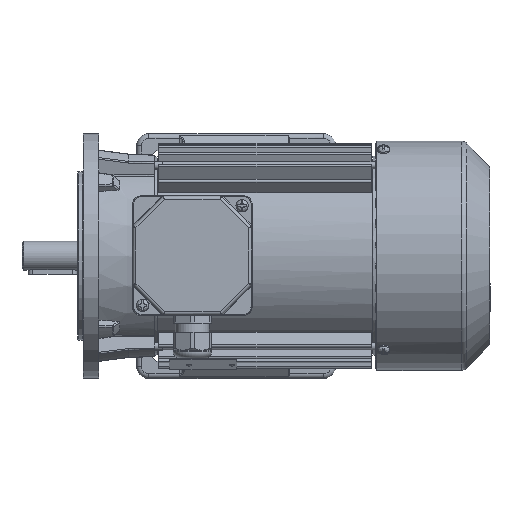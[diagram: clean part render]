
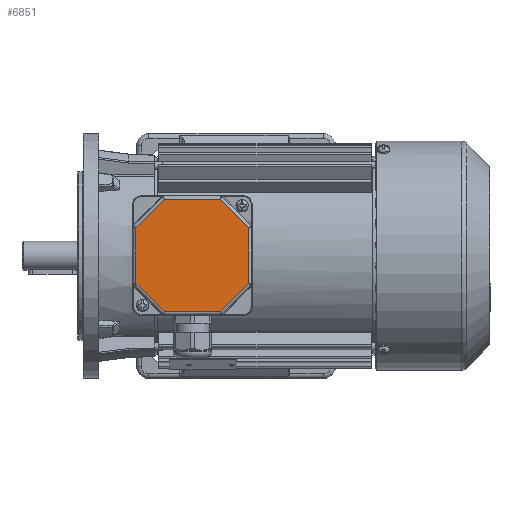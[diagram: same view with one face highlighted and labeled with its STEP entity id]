
A CAD part, top view. The second image highlights one B-rep face of the part: STEP entity #6851.
In plain terms, the highlighted planar face has unit normal (0, 0, 1).
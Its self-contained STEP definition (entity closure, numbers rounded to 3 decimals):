
#6851 = ADVANCED_FACE( '', ( #14478 ), #14479, .T. );
#14478 = FACE_OUTER_BOUND( '', #48279, .T. );
#14479 = PLANE( '', #48280 );
#48279 = EDGE_LOOP( '', ( #81169, #81170, #81171, #81172, #81173, #81174, #81175, #81176 ) );
#48280 = AXIS2_PLACEMENT_3D( '', #81177, #81178, #81179 );
#81169 = ORIENTED_EDGE( '', *, *, #95983, .T. );
#81170 = ORIENTED_EDGE( '', *, *, #98002, .T. );
#81171 = ORIENTED_EDGE( '', *, *, #97728, .T. );
#81172 = ORIENTED_EDGE( '', *, *, #98003, .T. );
#81173 = ORIENTED_EDGE( '', *, *, #98004, .T. );
#81174 = ORIENTED_EDGE( '', *, *, #93099, .T. );
#81175 = ORIENTED_EDGE( '', *, *, #97291, .T. );
#81176 = ORIENTED_EDGE( '', *, *, #94090, .T. );
#81177 = CARTESIAN_POINT( '', ( -39., 39., 12. ) );
#81178 = DIRECTION( '', ( 0., 0., 1. ) );
#81179 = DIRECTION( '', ( 1., 0., 0. ) );
#93099 = EDGE_CURVE( '', #104930, #102729, #106278, .T. );
#94090 = EDGE_CURVE( '', #107864, #107862, #107865, .T. );
#95983 = EDGE_CURVE( '', #107862, #110754, #110756, .F. );
#97291 = EDGE_CURVE( '', #102729, #107864, #112504, .F. );
#97728 = EDGE_CURVE( '', #113066, #109374, #113067, .F. );
#98002 = EDGE_CURVE( '', #110754, #113066, #113406, .T. );
#98003 = EDGE_CURVE( '', #109374, #113407, #113408, .T. );
#98004 = EDGE_CURVE( '', #113407, #104930, #113409, .F. );
#102729 = VERTEX_POINT( '', #120023 );
#104930 = VERTEX_POINT( '', #127484 );
#106278 = LINE( '', #133289, #133290 );
#107862 = VERTEX_POINT( '', #138285 );
#107864 = VERTEX_POINT( '', #138287 );
#107865 = LINE( '', #138288, #138289 );
#109374 = VERTEX_POINT( '', #143074 );
#110754 = VERTEX_POINT( '', #146317 );
#110756 = LINE( '', #146319, #146320 );
#112504 = LINE( '', #152281, #152282 );
#113066 = VERTEX_POINT( '', #154071 );
#113067 = LINE( '', #154072, #154073 );
#113406 = LINE( '', #154928, #154929 );
#113407 = VERTEX_POINT( '', #154930 );
#113408 = LINE( '', #154931, #154932 );
#113409 = LINE( '', #154933, #154934 );
#120023 = CARTESIAN_POINT( '', ( -18.255, -36.825, 12. ) );
#127484 = CARTESIAN_POINT( '', ( -36.825, -18.255, 12. ) );
#133289 = CARTESIAN_POINT( '', ( -17.679, -37.401, 12. ) );
#133290 = VECTOR( '', #165124, 1000. );
#138285 = CARTESIAN_POINT( '', ( 36.825, -18.255, 12. ) );
#138287 = CARTESIAN_POINT( '', ( 18.255, -36.825, 12. ) );
#138288 = CARTESIAN_POINT( '', ( 37.401, -17.679, 12. ) );
#138289 = VECTOR( '', #166254, 1000. );
#143074 = CARTESIAN_POINT( '', ( -18.255, 36.825, 12. ) );
#146317 = CARTESIAN_POINT( '', ( 36.825, 18.255, 12. ) );
#146319 = CARTESIAN_POINT( '', ( 36.825, 19.069, 12. ) );
#146320 = VECTOR( '', #168736, 1000. );
#152281 = CARTESIAN_POINT( '', ( 19.069, -36.825, 12. ) );
#152282 = VECTOR( '', #170118, 1000. );
#154071 = CARTESIAN_POINT( '', ( 18.255, 36.825, 12. ) );
#154072 = CARTESIAN_POINT( '', ( -19.069, 36.825, 12. ) );
#154073 = VECTOR( '', #170545, 1000. );
#154928 = CARTESIAN_POINT( '', ( 17.679, 37.401, 12. ) );
#154929 = VECTOR( '', #170829, 1000. );
#154930 = CARTESIAN_POINT( '', ( -36.825, 18.255, 12. ) );
#154931 = CARTESIAN_POINT( '', ( -37.401, 17.679, 12. ) );
#154932 = VECTOR( '', #170830, 1000. );
#154933 = CARTESIAN_POINT( '', ( -36.825, -19.069, 12. ) );
#154934 = VECTOR( '', #170831, 1000. );
#165124 = DIRECTION( '', ( 0.707, -0.707, 0. ) );
#166254 = DIRECTION( '', ( 0.707, 0.707, 0. ) );
#168736 = DIRECTION( '', ( 0., -1., 0. ) );
#170118 = DIRECTION( '', ( -1., 0., 0. ) );
#170545 = DIRECTION( '', ( 1., 0., 0. ) );
#170829 = DIRECTION( '', ( -0.707, 0.707, 0. ) );
#170830 = DIRECTION( '', ( -0.707, -0.707, 0. ) );
#170831 = DIRECTION( '', ( 0., 1., 0. ) );
